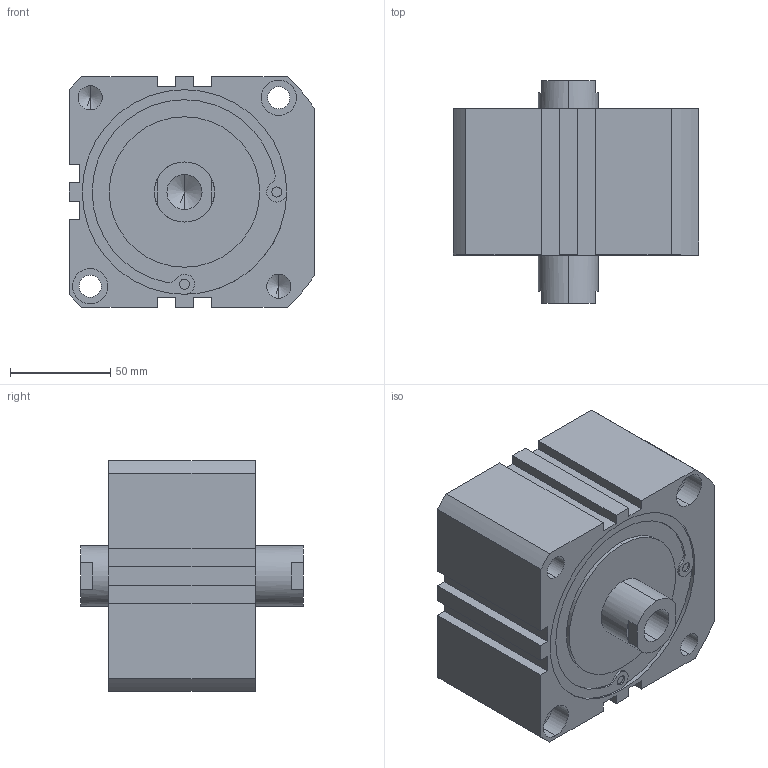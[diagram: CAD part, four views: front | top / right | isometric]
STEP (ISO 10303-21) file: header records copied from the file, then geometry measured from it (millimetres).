
FILE_DESCRIPTION (( 'STEP AP203' ), '1' );
FILE_NAME ('XC#7-100-10.STEP', '2016-05-23T08:28:35', ( '' ), ( '' ), 'SwSTEP 2.0', 'SolidWorks 2014', '' );
FILE_SCHEMA (( 'CONFIG_CONTROL_DESIGN' ));
Length unit declared in the file: millimetre
Products named in the file (1): XC#7-100-10
Bounding box: 122.5 x 111 x 115 mm (x, y, z)
Volume: 948294.6 mm3; surface area: 85560.8 mm2
Topology: 1 solids, 1 shells, 142 faces, 354 edges, 222 vertices
Faces by surface type: cylinder 66, plane 56, cone 20
Entity records: 4237 total; most frequent: DIRECTION 774, CARTESIAN_POINT 703, ORIENTED_EDGE 676, EDGE_CURVE 338, AXIS2_PLACEMENT_3D 293, VERTEX_POINT 222, VECTOR 188, LINE 188
